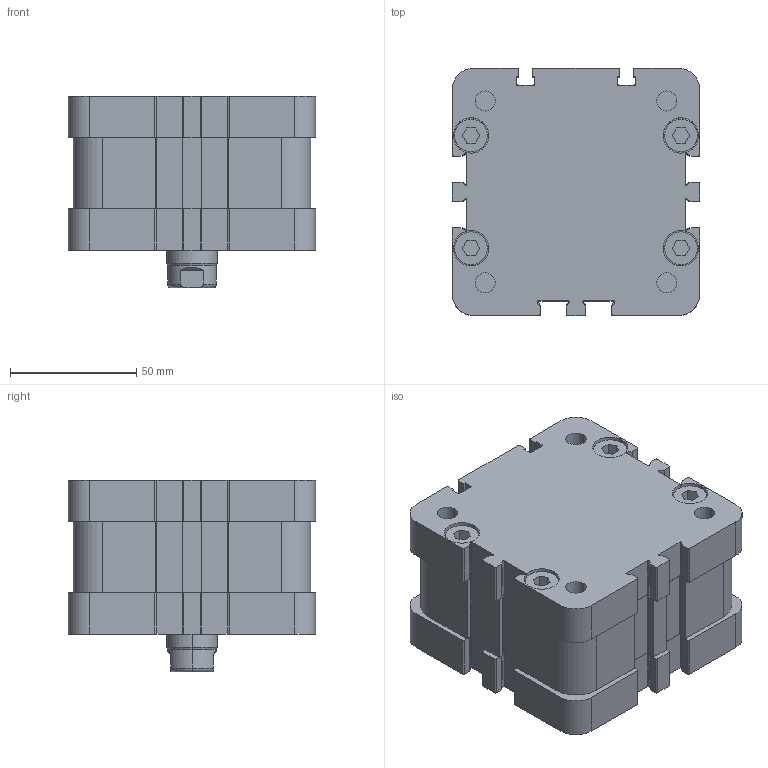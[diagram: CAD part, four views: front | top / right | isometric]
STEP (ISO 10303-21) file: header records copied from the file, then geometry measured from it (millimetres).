
FILE_DESCRIPTION((''),'2;1');
FILE_NAME('P11M30800005.stp','2010-02-25T19:40:52',('B. Petkovic 2010'),('AZ PNEUMATICA S.r.l.'),'Mechanical Desktop 2006','Mechanical Desktop 2006','Via Marco Biagi 6, I-20020 Misinto(MI) Italy, azpneu@tin.it');
FILE_SCHEMA(('CONFIG_CONTROL_DESIGN'));
Length unit declared in the file: millimetre
Products named in the file (2): P11M30800005; COMPACT CILINDRI
Assembly tree (1 placements, depth 2):
  P11M30800005
    COMPACT CILINDRI
Bounding box: 98 x 98 x 76 mm (x, y, z)
Volume: 522833.9 mm3; surface area: 62764.3 mm2
Topology: 1 solids, 1 shells, 524 faces, 1386 edges, 901 vertices
Faces by surface type: plane 322, cylinder 194, cone 6, torus 2
Entity records: 16435 total; most frequent: DIRECTION 2912, CARTESIAN_POINT 2895, ORIENTED_EDGE 2768, EDGE_CURVE 1384, AXIS2_PLACEMENT_3D 1004, VECTOR 904, LINE 904, VERTEX_POINT 901
